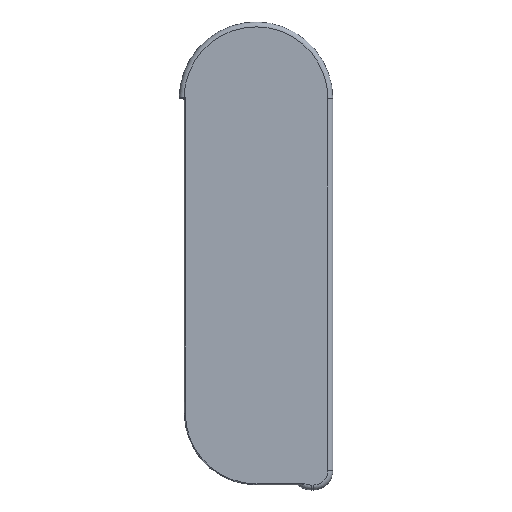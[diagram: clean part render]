
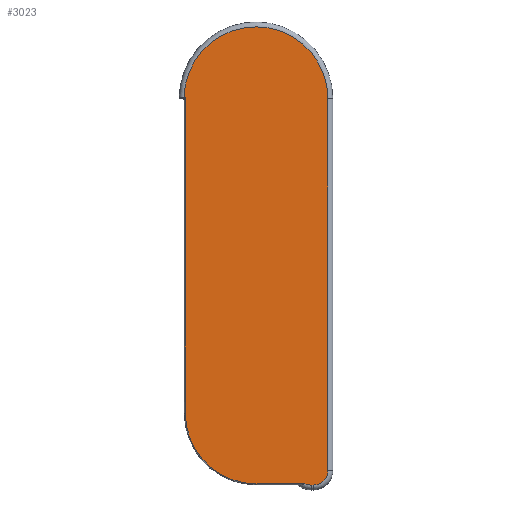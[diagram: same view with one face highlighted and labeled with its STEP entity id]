
A CAD part, top view. The second image highlights one B-rep face of the part: STEP entity #3023.
In plain terms, the highlighted planar face has unit normal (0, 0, 1).
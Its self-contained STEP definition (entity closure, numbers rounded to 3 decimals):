
#960=DIRECTION('',(0.,-1.,0.));
#961=VECTOR('',#960,97.1);
#962=CARTESIAN_POINT('',(-23.25,53.1,13.6));
#963=LINE('',#962,#961);
#964=DIRECTION('',(-1.,0.,0.));
#965=VECTOR('',#964,0.396);
#966=CARTESIAN_POINT('',(-23.25,53.1,13.6));
#967=LINE('',#966,#965);
#968=CARTESIAN_POINT('',(-1.5,52.7,13.6));
#969=DIRECTION('',(0.,0.,1.));
#970=DIRECTION('',(1.,0.,0.));
#971=AXIS2_PLACEMENT_3D('',#968,#969,#970);
#973=DIRECTION('',(0.,1.,0.));
#974=VECTOR('',#973,114.35);
#975=CARTESIAN_POINT('',(20.65,-61.65,13.6));
#976=LINE('',#975,#974);
#977=CARTESIAN_POINT('',(16.15,-61.65,13.6));
#978=DIRECTION('',(0.,0.,1.));
#979=DIRECTION('',(0.,-1.,0.));
#980=AXIS2_PLACEMENT_3D('',#977,#978,#979);
#982=DIRECTION('',(1.,0.,0.));
#983=VECTOR('',#982,0.6);
#984=CARTESIAN_POINT('',(15.55,-66.15,13.6));
#985=LINE('',#984,#983);
#986=DIRECTION('',(1.,0.,0.));
#987=VECTOR('',#986,15.07);
#988=CARTESIAN_POINT('',(-1.5,-65.75,13.6));
#989=LINE('',#988,#987);
#990=CARTESIAN_POINT('',(-1.5,-44.,13.6));
#991=DIRECTION('',(0.,0.,1.));
#992=DIRECTION('',(-1.,0.,0.));
#993=AXIS2_PLACEMENT_3D('',#990,#991,#992);
#1014=CARTESIAN_POINT('',(-23.25,53.1,13.6));
#1077=CARTESIAN_POINT('',(-23.646,53.1,13.6));
#1178=CARTESIAN_POINT('',(15.55,-61.05,13.6));
#1179=DIRECTION('',(0.,0.,1.));
#1180=DIRECTION('',(-0.388,-0.922,0.));
#1181=AXIS2_PLACEMENT_3D('',#1178,#1179,#1180);
#1221=CARTESIAN_POINT('',(20.65,-61.65,13.6));
#1222=CARTESIAN_POINT('',(20.65,52.7,13.6));
#1223=VERTEX_POINT('',#1221);
#1224=VERTEX_POINT('',#1222);
#1229=CARTESIAN_POINT('',(16.15,-66.15,13.6));
#1230=VERTEX_POINT('',#1229);
#1233=CARTESIAN_POINT('',(15.55,-66.15,13.6));
#1234=VERTEX_POINT('',#1233);
#1245=CARTESIAN_POINT('',(-1.5,-65.75,13.6));
#1246=CARTESIAN_POINT('',(13.57,-65.75,13.6));
#1247=VERTEX_POINT('',#1245);
#1248=VERTEX_POINT('',#1246);
#1249=CARTESIAN_POINT('',(-23.25,-44.,13.6));
#1250=VERTEX_POINT('',#1249);
#1261=VERTEX_POINT('',#1077);
#1274=VERTEX_POINT('',#1014);
#2999=CARTESIAN_POINT('',(0.,0.,13.6));
#3000=DIRECTION('',(0.,0.,1.));
#3001=DIRECTION('',(1.,0.,0.));
#3002=AXIS2_PLACEMENT_3D('',#2999,#3000,#3001);
#3003=PLANE('',#3002);
#3005=ORIENTED_EDGE('',*,*,#3004,.F.);
#3007=ORIENTED_EDGE('',*,*,#3006,.T.);
#3009=ORIENTED_EDGE('',*,*,#3008,.F.);
#3011=ORIENTED_EDGE('',*,*,#3010,.F.);
#3012=ORIENTED_EDGE('',*,*,#2989,.F.);
#3014=ORIENTED_EDGE('',*,*,#3013,.F.);
#3016=ORIENTED_EDGE('',*,*,#3015,.F.);
#3018=ORIENTED_EDGE('',*,*,#3017,.F.);
#3020=ORIENTED_EDGE('',*,*,#3019,.F.);
#3021=EDGE_LOOP('',(#3005,#3007,#3009,#3011,#3012,#3014,#3016,#3018,#3020));
#3022=FACE_OUTER_BOUND('',#3021,.F.);
#3023=ADVANCED_FACE('',(#3022),#3003,.T.);
#972=CIRCLE('',#971,22.15);
#981=CIRCLE('',#980,4.5);
#994=CIRCLE('',#993,21.75);
#1182=CIRCLE('',#1181,5.1);
#2989=EDGE_CURVE('',#1230,#1223,#981,.T.);
#3004=EDGE_CURVE('',#1274,#1250,#963,.T.);
#3006=EDGE_CURVE('',#1274,#1261,#967,.T.);
#3008=EDGE_CURVE('',#1224,#1261,#972,.T.);
#3010=EDGE_CURVE('',#1223,#1224,#976,.T.);
#3013=EDGE_CURVE('',#1234,#1230,#985,.T.);
#3015=EDGE_CURVE('',#1248,#1234,#1182,.T.);
#3017=EDGE_CURVE('',#1247,#1248,#989,.T.);
#3019=EDGE_CURVE('',#1250,#1247,#994,.T.);
